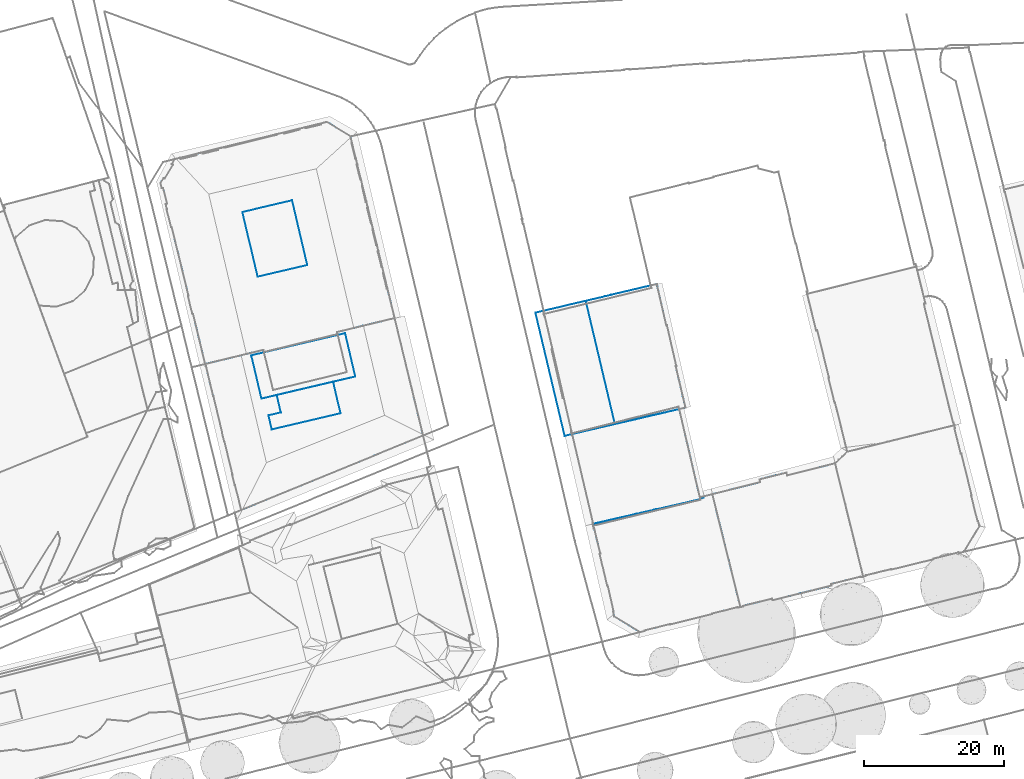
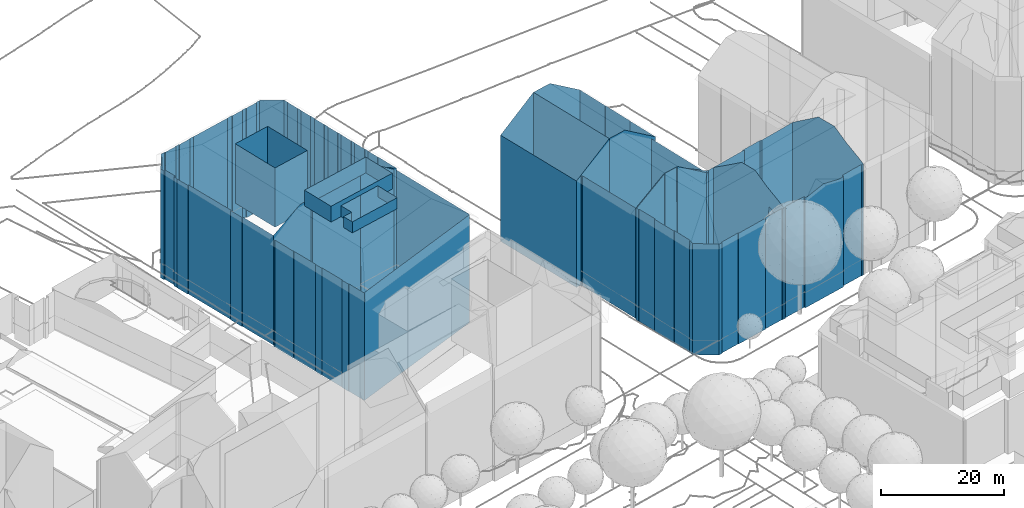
# Not in any storey, part 55 of 494: 7 walls.
"""IFC2X3 model written with IfcOpenShell, lengths in metres."""

import ifcopenshell
import ifcopenshell.guid

model = None  # the IFC model being written
_history = None  # IfcOwnerHistory: only IFC2X3 demands one
_inside = {}  # id of a spatial element -> (the spatial element, [elements in it])
_under = {}  # id of a project, library or spatial element -> (it, [spatial elements below it])
_declared = {}  # id of a project -> (the project, [libraries it declares])
_typed = {}  # id of a type object -> (the type object, [elements of that type])
_made_of = {}  # id of a material, layer set ... -> (it, [elements and type objects made of it])


def new_model(schema):
    """Start an empty IFC model of exactly this schema.

    Asked for "IFC4X3", IfcOpenShell would pick the latest addendum, in which some entities
    have other attributes; the version numbers below select the first issue.
    IFC2X3 requires an IfcOwnerHistory on every rooted entity: one is made here for all.
    """
    global model, _history
    if schema == "IFC4X3":
        model = ifcopenshell.file(schema_version=(4, 3, 0, 0))
    else:
        model = ifcopenshell.file(schema=schema)
    _inside.clear()
    _under.clear()
    _declared.clear()
    _typed.clear()
    _made_of.clear()
    _history = None
    if model.schema == "IFC2X3":
        org = make("IfcOrganization", Name="unknown")
        user = make(
            "IfcPersonAndOrganization",
            ThePerson=make("IfcPerson", FamilyName="unknown"),
            TheOrganization=org,
        )
        app = make(
            "IfcApplication",
            ApplicationDeveloper=org,
            Version="unknown",
            ApplicationFullName="unknown",
            ApplicationIdentifier="unknown",
        )
        _history = make(
            "IfcOwnerHistory",
            OwningUser=user,
            OwningApplication=app,
            ChangeAction="ADDED",
            CreationDate=0,
        )
    return model


def make(cls, **values):
    """One entity of the class cls with the attributes given. An attribute that is None is left unset."""
    return model.create_entity(
        cls, **{name: value for name, value in values.items() if value is not None}
    )


def rooted(cls, **values):
    """An entity with a GlobalId (a new one), such as an element, a storey or a relation."""
    return make(cls, GlobalId=ifcopenshell.guid.new(), OwnerHistory=_history, **values)


def si_unit(unit_type, name, prefix=None):
    """IfcSIUnit, for example si_unit("LENGTHUNIT", "METRE", prefix="MILLI")."""
    return make("IfcSIUnit", UnitType=unit_type, Prefix=prefix, Name=name)


def assignment(units):
    """IfcUnitAssignment: the units of a project."""
    return None if units is None else make("IfcUnitAssignment", Units=units)


def point(xyz):
    """IfcCartesianPoint."""
    return None if xyz is None else make("IfcCartesianPoint", Coordinates=xyz)


def direction(xyz):
    """IfcDirection."""
    return None if xyz is None else make("IfcDirection", DirectionRatios=xyz)


def frame(location, z_axis=None, x_axis=None):
    """IfcAxis2Placement3D, a coordinate frame: its origin and axes. An axis left out is left unset."""
    return make(
        "IfcAxis2Placement3D",
        Location=point(location),
        Axis=direction(z_axis),
        RefDirection=direction(x_axis),
    )


def origin_with_axes():
    """The frame at (0, 0, 0) with the z axis (0, 0, 1) and the x axis (1, 0, 0) written out."""
    return frame((0.0, 0.0, 0.0), z_axis=(0.0, 0.0, 1.0), x_axis=(1.0, 0.0, 0.0))


def place(relative_to, where):
    """IfcLocalPlacement: puts the frame where relative to a parent placement (None: the world)."""
    return make(
        "IfcLocalPlacement", PlacementRelTo=relative_to, RelativePlacement=where
    )


def context(
    kind, dimensions, precision=None, world=None, true_north=None, identifier=None
):
    """IfcGeometricRepresentationContext, for example the 3D "Model" context."""
    return make(
        "IfcGeometricRepresentationContext",
        ContextIdentifier=identifier,
        ContextType=kind,
        CoordinateSpaceDimension=dimensions,
        Precision=precision,
        WorldCoordinateSystem=world,
        TrueNorth=true_north,
    )


def subcontext(parent, identifier, kind, view, scale=None):
    """IfcGeometricRepresentationSubContext, for example "Body" below "Model"."""
    return make(
        "IfcGeometricRepresentationSubContext",
        ContextIdentifier=identifier,
        ContextType=kind,
        ParentContext=parent,
        TargetScale=scale,
        TargetView=view,
    )


def project(units=None, contexts=None):
    """IfcProject with its units and contexts."""
    return rooted(
        "IfcProject",
        Name="project",
        RepresentationContexts=contexts,
        UnitsInContext=assignment(units),
    )


def faces_of(points, faces, orient=None, outer=None):
    """IfcFace entities. A face is a list of loops; a loop is a list of indices into points, from 0.

    orient and outer hold one flag for each loop. By default every Orientation is true, the
    first loop of a face is its IfcFaceOuterBound and the others are IfcFaceBound.
    """
    made = []
    for i, loops in enumerate(faces):
        bounds = []
        for j, loop in enumerate(loops):
            is_outer = j == 0 if outer is None else outer[i][j]
            bounds.append(
                make(
                    "IfcFaceOuterBound" if is_outer else "IfcFaceBound",
                    Bound=make("IfcPolyLoop", Polygon=[points[k] for k in loop]),
                    Orientation=True if orient is None else orient[i][j],
                )
            )
        made.append(make("IfcFace", Bounds=bounds))
    return made


def faceted_brep(points, faces, orient=None, outer=None, voids=None):
    """IfcFacetedBrep: a solid bounded by flat faces; with voids (closed shells), ...WithVoids."""
    shared = [point(p) for p in points]
    hull = make("IfcClosedShell", CfsFaces=faces_of(shared, faces, orient, outer))
    if voids is None:
        return make("IfcFacetedBrep", Outer=hull)
    return make(
        "IfcFacetedBrepWithVoids",
        Outer=hull,
        Voids=[
            make(cls, CfsFaces=faces_of(shared, fs, o, b)) for cls, fs, o, b in voids
        ],
    )


def shape(context_of_items, identifier, shape_type, items):
    """IfcShapeRepresentation: the items that make up one representation, for example the "Body"."""
    return make(
        "IfcShapeRepresentation",
        ContextOfItems=context_of_items,
        RepresentationIdentifier=identifier,
        RepresentationType=shape_type,
        Items=items,
    )


def made_of(thing, what):
    """Note that an element or type object is made of a material, layer set ...; save() writes the relation."""
    if what is not None:
        _made_of.setdefault(what.id(), (what, []))[1].append(thing)
    return thing


def element(
    cls,
    number,
    at=None,
    inside=None,
    cuts=None,
    type_object=None,
    material=None,
    context=None,
    identifier="Body",
    shape_type=None,
    held_by="IfcProductDefinitionShape",
    body=None,
    shapes=None,
    **own,
):
    """One element of the class cls, such as IfcWall. Its Tag is "e" and its number.

    at: its placement. inside: the storey or other place that contains it. cuts: it is an
    opening in that element (IfcRelVoidsElement). A single representation is given by context,
    identifier, shape_type and body (its items); several are given by shapes. held_by: the class
    of the entity that holds the representations. save() writes the other relations.
    """
    e = rooted(cls, Tag="e%d" % number, ObjectPlacement=at, **own)
    if body is not None:
        shapes = [shape(context, identifier, shape_type, body)]
    if shapes is not None:
        e.Representation = make(held_by, Representations=shapes)
    if inside is not None:
        _inside.setdefault(inside.id(), (inside, []))[1].append(e)
    if cuts is not None:
        rooted(
            "IfcRelVoidsElement", RelatingBuildingElement=cuts, RelatedOpeningElement=e
        )
    if type_object is not None:
        _typed.setdefault(type_object.id(), (type_object, []))[1].append(e)
    return made_of(e, material)


def aggregate(whole, parts):
    """IfcRelAggregates: a whole, such as a stair, and the parts it consists of."""
    return rooted("IfcRelAggregates", RelatingObject=whole, RelatedObjects=parts)


def save(model, path):
    """Write the relations noted so far, then the file.

    IfcRelAggregates (storeys below a building ...), IfcRelContainedInSpatialStructure (elements
    in a storey), IfcRelDefinesByType, IfcRelAssociatesMaterial and IfcRelDeclares: one each for
    every whole, place, type object, material and project.
    """
    for whole, parts in _under.values():
        aggregate(whole, parts)
    for where, things in _inside.values():
        rooted(
            "IfcRelContainedInSpatialStructure",
            RelatedElements=things,
            RelatingStructure=where,
        )
    for kind, things in _typed.values():
        rooted("IfcRelDefinesByType", RelatedObjects=things, RelatingType=kind)
    for what, things in _made_of.values():
        rooted("IfcRelAssociatesMaterial", RelatedObjects=things, RelatingMaterial=what)
    for by, libraries in _declared.values():
        rooted("IfcRelDeclares", RelatingContext=by, RelatedDefinitions=libraries)
    model.write(path)


model = new_model("IFC2X3")

# Units and contexts
model_context = context("Model", 3, precision=1e-05, world=origin_with_axes())
body_context = subcontext(model_context, "Body", "Model", "MODEL_VIEW")
ifc_project = project(units=[si_unit("AREAUNIT", "SQUARE_METRE"), si_unit("LENGTHUNIT", "METRE")], contexts=[model_context])

# Walls
wall_1_placement = place(None, frame((230.2577320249, 452.7801160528, 539.0125), z_axis=(0.0, 0.0, 1.0), x_axis=(1.0, 0.0, 0.0)))
element("IfcWall", 1, at=wall_1_placement, Name="Wall 0", context=body_context, shape_type="Brep", body=[
    faceted_brep([(16.5780000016, 6.927699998, 21.8199), (16.5780000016, 6.927699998, 0.0), (16.5880000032, 6.8554999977, 0.0), (9.126000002, 5.0029000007, 0.0), (9.126000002, 5.0029000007, 21.9099), (16.5880000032, 6.8554999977, 21.8589), (9.1020000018, 5.0918000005, 0.0), (9.1020000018, 5.0918000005, 21.8589), (8.1790000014, 4.865199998, 0.0), (8.1790000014, 4.865199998, 21.8639), (8.2260000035, 4.682599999, 21.9669), (5.9920000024, 4.1405999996, 0.0), (5.9920000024, 4.1405999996, 21.9749), (8.2260000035, 4.682599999, 0.0), (5.942900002, 4.3242000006, 0.0), (5.943, 4.3242000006, 21.8709), (5.0940000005, 4.1191000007, 21.8739), (5.0940000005, 4.1191000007, 0.0), (5.1450000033, 3.932599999, 21.9799), (5.1450000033, 3.932599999, 0.0), (2.8370000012, 3.5751999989, 0.0), (2.8370000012, 3.5751999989, 21.8799), (2.8790000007, 3.3896000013, 21.9849), (2.8790000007, 3.3896000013, 0.0), (23.6950000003, 8.6816000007, 0.0), (22.8540000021, 8.4745999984, 0.0), (23.6950000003, 8.6816000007, 21.7789), (22.893000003, 8.3104999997, 21.8749), (22.893000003, 8.3104999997, 0.0), (22.8540000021, 8.4745999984, 21.7829), (20.6920000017, 7.7694999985, 0.0), (20.6920000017, 7.7694999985, 21.8869), (20.6500000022, 7.9316000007, 0.0), (19.8040000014, 7.7225999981, 0.0), (19.8040000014, 7.7225999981, 21.8009), (20.6500000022, 7.9316000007, 21.7959), (19.8400000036, 7.5683000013, 21.8869), (17.5990000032, 7.0155999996, 21.9009), (19.8400000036, 7.5683000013, 0.0), (17.5990000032, 7.0155999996, 0.0), (25.2350000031, -21.5371000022, 25.1226), (14.745000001, -24.0771999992, 25.1226), (25.2350000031, -21.5371000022, 0.0), (25.1650000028, -21.2373000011, 25.1226), (25.1650000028, -21.2373000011, 0.0), (27.2200000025, 5.6796999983, 21.9849), (27.756000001, 3.4463, 21.9799), (27.2200000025, 5.6796999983, 0.0), (27.2960000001, 5.6992000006, 21.9419), (27.2960000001, 5.6992000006, 0.0), (32.3320000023, -15.0274000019, 21.8609), (32.8790000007, -17.2793000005, 21.8529), (32.3320000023, -15.0274000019, 0.0), (33.3600000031, -19.259800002, 21.8449), (33.3600000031, -19.259800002, 0.0), (32.2300000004, -15.0487999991, 21.9179), (32.2299000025, -15.0489000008, 0.0), (31.6970000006, -12.8408000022, 21.9249), (31.6970000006, -12.8408000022, 0.0), (31.7940000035, -12.8145000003, 0.0), (31.7940000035, -12.8145000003, 21.8699), (31.5860000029, -11.9561000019, 0.0), (31.5860000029, -11.9561000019, 21.8729), (31.4900000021, -11.9824000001, 21.9269), (31.4900000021, -11.9824000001, 0.0), (31.0420000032, -9.7158000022, 21.8819), (30.9450000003, -9.751000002, 21.9379), (31.0420000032, -9.7158000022, 0.0), (30.9450000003, -9.751000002, 0.0), (30.8360000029, -8.8672000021, 0.0), (30.7380000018, -8.884800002, 0.0), (30.7380000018, -8.884800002, 21.9389), (30.2910000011, -6.6231000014, 0.0), (30.2910000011, -6.6231000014, 21.8929), (30.200000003, -6.6464999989, 0.0), (30.1999000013, -6.6464999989, 21.9449), (30.0790000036, -5.7529000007, 0.0), (30.0790000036, -5.7529000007, 21.8969), (29.9910000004, -5.7754000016, 21.9469), (29.9910000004, -5.7754000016, 0.0), (29.4420000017, -3.5713, 0.0), (29.5420000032, -3.5439999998, 21.9059), (29.5420000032, -3.5439999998, 0.0), (29.3340000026, -2.688500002, 0.0), (28.7090000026, -0.4902000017, 21.9659), (29.2390000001, -2.7109999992, 21.9629), (29.2390000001, -2.7109999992, 0.0), (28.7950000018, -0.4677999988, 21.9179), (28.7090000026, -0.4902000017, 0.0), (28.7950000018, -0.4677999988, 0.0), (28.5660000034, 0.4765000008, 21.9209), (28.5660000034, 0.4765000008, 0.0), (27.9520000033, 2.5918000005, 21.9819), (28.4730000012, 0.4550999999, 21.9729), (28.4730000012, 0.4550999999, 0.0), (27.9520000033, 2.5918000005, 0.0), (28.0450000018, 2.6191000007, 21.9299), (28.0450000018, 2.6191000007, 0.0), (27.8370000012, 3.4765000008, 0.0), (27.8370000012, 3.4765000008, 21.9329), (27.756000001, 3.4463, 0.0), (0.193, -0.759800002, 21.684), (0.0, 0.0, 21.676), (0.0, 0.0, 0.0), (0.3900000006, -0.7080000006, 0.0), (0.3900000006, -0.7080000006, 21.795), (0.193, -0.759800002, 0.0), (0.9550000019, -2.9834000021, 0.0), (0.7440000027, -3.0401000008, 0.0), (0.7440000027, -3.0401000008, 21.691), (0.932, -3.7626999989, 0.0), (0.8920000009, -3.7793000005, 0.0), (0.932, -3.7626999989, 21.7), (1.5210000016, -6.313500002, 21.694), (0.8920000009, -3.7793000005, 21.677), (1.5210000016, -6.313500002, 0.0), (1.6220000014, -6.2890999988, 21.7509), (1.6220000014, -6.2890999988, 0.0), (4.0050000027, -16.0331999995, 0.0), (4.0050000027, -16.0331999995, 21.7969), (3.9150000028, -16.066399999, 21.7449), (3.9150000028, -16.066399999, 0.0), (4.563000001, -18.7061000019, 21.7589), (4.563000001, -18.7061000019, 0.0), (4.6691000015, -18.6816000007, 0.0), (6.3790000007, -25.7998000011, 21.8349), (5.7700000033, -23.2666000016, 21.8289), (6.3790000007, -25.7998000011, 0.0), (4.6690000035, -18.6816999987, 21.8179), (5.5080000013, -22.1737999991, 0.0), (1.6120000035, 2.682599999, 0.0), (1.6120000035, 2.682599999, 21.784), (2.0240000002, 3.378899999, 21.801), (2.0240000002, 3.378899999, 0.0), (1.7870000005, 2.5702999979, 21.8889), (1.7870000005, 2.5702999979, 0.0), (0.5960000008, 0.5975999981, 21.8309), (0.5960000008, 0.5975999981, 0.0), (0.4340000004, 0.7080000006, 21.733), (0.4340000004, 0.7080000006, 0.0), (20.9200000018, -11.6895000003, 0.497), (18.75, -2.4805000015, 0.497), (20.9200000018, -11.6895000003, 0.0), (20.9200000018, -11.6895000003, 25.1226), (18.75, -2.4805000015, 25.1226), (20.9200000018, -11.6895000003, 13.3077), (13.8490000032, -13.3555000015, 0.497), (13.8490000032, -13.3555000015, 0.0), (13.8490000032, -13.3555000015, 25.1226), (13.8490000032, -13.3555000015, 13.3077), (11.6790000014, -4.1464999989, 25.1226), (11.6790000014, -4.1464999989, 13.3077), (11.6790000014, -4.1464999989, 0.497), (11.6790000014, -4.1464999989, 0.0), (18.75, -2.4805000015, 0.0), (18.75, -2.4805000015, 13.3077), (2.2350000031, 3.4296999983, 21.8829), (27.074000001, 6.6162, 21.9039), (23.8570000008, 8.5830000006, 21.8509), (27.074000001, 6.6162, 0.0), (12.2280000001, -24.3720999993, 25.1226), (12.2280000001, -24.3720999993, 0.0), (14.6650000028, -23.7774000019, 25.1226), (14.745000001, -24.0771999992, 0.0), (14.6650000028, -23.7774000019, 0.0), (27.5240000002, -20.6680000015, 25.1226), (27.5240000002, -20.6680000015, 0.0), (27.1000000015, 6.5088, 21.9449), (0.0490000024, 0.0800999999, 21.712), (17.5710000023, 7.1728000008, 0.0), (17.5710000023, 7.1728000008, 21.8139), (30.8360000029, -8.8672000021, 21.8849), (29.4420000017, -3.5713, 21.9619), (29.3340000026, -2.688500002, 21.9089), (0.9550000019, -2.9834000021, 21.8099)], [[[0, 1, 2]], [[3, 4, 5]], [[5, 2, 3]], [[4, 3, 6]], [[7, 6, 8]], [[9, 8, 10]], [[11, 12, 10]], [[11, 10, 13]], [[14, 15, 12]], [[12, 11, 14]], [[16, 14, 17]], [[15, 14, 16]], [[18, 16, 19]], [[19, 16, 17]], [[20, 21, 22]], [[22, 23, 20]], [[24, 25, 26]], [[27, 25, 28]], [[29, 25, 27]], [[30, 31, 28]], [[27, 28, 31]], [[31, 30, 32]], [[33, 34, 35]], [[36, 34, 33]], [[37, 38, 39]], [[40, 41, 42]], [[43, 40, 44]], [[45, 46, 47]], [[48, 47, 49]], [[48, 45, 47]], [[50, 51, 52]], [[51, 53, 54]], [[54, 52, 51]], [[55, 50, 56]], [[57, 55, 58]], [[55, 56, 58]], [[58, 59, 60]], [[61, 62, 59]], [[63, 62, 64]], [[64, 62, 61]], [[65, 66, 67]], [[67, 66, 68]], [[65, 67, 69]], [[70, 71, 69]], [[72, 73, 74]], [[75, 74, 73]], [[76, 77, 73]], [[73, 72, 76]], [[76, 78, 77]], [[78, 79, 80]], [[81, 80, 82]], [[81, 82, 83]], [[84, 85, 86]], [[87, 88, 89]], [[90, 89, 91]], [[92, 93, 94]], [[95, 96, 92]], [[97, 96, 95]], [[96, 97, 98]], [[46, 99, 98]], [[46, 98, 100]], [[101, 102, 103]], [[104, 105, 106]], [[105, 104, 107]], [[108, 109, 107]], [[109, 108, 110]], [[111, 112, 110]], [[113, 114, 115]], [[116, 115, 117]], [[118, 119, 117]], [[119, 116, 117]], [[120, 118, 121]], [[118, 120, 119]], [[122, 120, 123]], [[120, 121, 123]], [[124, 122, 123]], [[125, 126, 127]], [[126, 128, 129]], [[128, 124, 129]], [[130, 131, 132]], [[132, 133, 130]], [[131, 130, 134]], [[134, 130, 135]], [[134, 135, 136]], [[137, 136, 135]], [[138, 136, 139]], [[136, 137, 139]], [[140, 141, 142]], [[143, 144, 145]], [[146, 140, 147]], [[148, 143, 149]], [[150, 148, 151]], [[152, 146, 153]], [[141, 152, 154]], [[144, 150, 155]], [[20, 133, 132]], [[21, 20, 132]], [[132, 156, 21]], [[24, 26, 157]], [[157, 26, 158]], [[24, 157, 159]], [[160, 161, 162]], [[160, 127, 161]], [[125, 127, 160]], [[162, 163, 41]], [[163, 162, 164]], [[53, 165, 54]], [[44, 166, 43]], [[166, 54, 165]], [[157, 167, 159]], [[167, 49, 159]], [[48, 49, 167]], [[103, 102, 139]], [[139, 102, 168]], [[139, 168, 138]], [[5, 0, 2]], [[7, 4, 6]], [[8, 9, 7]], [[8, 13, 10]], [[23, 22, 18]], [[18, 19, 23]], [[25, 29, 26]], [[31, 32, 35]], [[35, 32, 33]], [[38, 36, 33]], [[36, 38, 37]], [[169, 170, 39]], [[37, 39, 170]], [[170, 1, 0]], [[170, 169, 1]], [[41, 163, 42]], [[40, 42, 44]], [[46, 100, 47]], [[50, 52, 56]], [[60, 57, 58]], [[60, 59, 62]], [[63, 68, 66]], [[63, 64, 68]], [[69, 171, 65]], [[171, 69, 71]], [[71, 70, 74]], [[71, 74, 75]], [[78, 76, 79]], [[80, 172, 78]], [[172, 80, 81]], [[81, 83, 173]], [[173, 86, 85]], [[173, 83, 86]], [[84, 86, 88]], [[84, 88, 87]], [[87, 89, 90]], [[90, 94, 93]], [[90, 91, 94]], [[92, 94, 95]], [[98, 99, 96]], [[106, 101, 103]], [[106, 105, 101]], [[105, 107, 174]], [[109, 174, 107]], [[109, 110, 112]], [[111, 114, 112]], [[114, 111, 115]], [[113, 115, 116]], [[122, 124, 128]], [[126, 129, 127]], [[141, 154, 142]], [[144, 155, 145]], [[140, 142, 147]], [[143, 145, 149]], [[148, 149, 151]], [[146, 147, 153]], [[152, 153, 154]], [[150, 151, 155]], [[161, 164, 162]], [[166, 165, 43]]]),
])
wall_2_placement = place(None, frame((236.6347320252, 426.9871160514, 538.7695), z_axis=(0.0, 0.0, 1.0), x_axis=(1.0, 0.0, 0.0)))
element("IfcWall", 2, at=wall_2_placement, Name="Wall 0", context=body_context, shape_type="Brep", body=[
    faceted_brep([(2.7330000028, -11.1210999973, 0.0), (2.7330000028, -11.1210999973, 21.329), (2.376000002, -9.6816000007, 0.0), (2.376000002, -9.6816000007, 21.317), (2.7730999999, -11.1136000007, 0.0), (2.7730000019, -11.1132999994, 21.358), (3.8969999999, -15.7313999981, 21.382), (3.8969999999, -15.7313999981, 0.0), (3.8449000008, -15.7606000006, 0.0), (3.8450000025, -15.7606999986, 21.342), (4.2070000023, -17.2196999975, 0.0), (4.256000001, -17.2236000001, 0.0), (4.2070000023, -17.2196999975, 21.355), (5.1359999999, -20.7929999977, 5.3535), (5.1359999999, -20.7929999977, 10.707), (5.1359999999, -20.7929999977, 0.0), (5.1359999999, -20.7929999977, 21.4139), (4.256000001, -17.2236000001, 21.387), (0.0730000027, -0.3017999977, 0.0), (0.0730000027, -0.3017999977, 21.254), (0.0, 0.0, 21.253), (0.0, 0.0, 10.626), (0.1210000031, -0.2899999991, 0.0), (1.1440000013, -4.5946999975, 21.295), (0.1210000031, -0.2899999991, 21.289), (1.1440000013, -4.5946999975, 0.0), (1.1799999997, -4.5888999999, 21.32), (1.1799999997, -4.5888999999, 0.0), (2.4130000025, -9.6649999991, 0.0), (2.4130000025, -9.6649999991, 21.345), (8.3680000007, 1.7158000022, 24.9116), (18.8580000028, 4.2558999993, 24.9116), (8.3680000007, 1.7158000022, 0.0), (8.2880000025, 2.0155999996, 24.9116), (8.2880000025, 2.0155999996, 0.0), (18.7880000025, 4.5556000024, 24.9116), (18.8580000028, 4.2558000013, 0.0), (18.2190000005, -2.5136999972, 27.1124), (19.2790000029, -7.0117000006, 27.1124), (18.2190000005, -2.5136999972, 24.9116), (10.7780000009, -6.8856999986, 27.1124), (10.194000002, -4.4043000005, 27.1124), (10.7780000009, -6.8856999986, 24.9116), (9.012000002, -7.3017999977, 27.1124), (9.012000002, -7.3017999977, 24.9116), (9.4869999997, -9.3183999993, 27.1124), (9.4869999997, -9.3183999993, 24.9116), (19.2790000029, -7.0117000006, 24.9116), (6.5670000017, 1.2305000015, 28.0713), (19.9299999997, 4.379900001, 28.0713), (6.5670000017, 1.2305000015, 24.9116), (8.0160000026, -4.9169999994, 28.0713), (8.0160000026, -4.9169999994, 24.9116), (21.3790000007, -1.7685999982, 28.0713), (21.3790000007, -1.7685000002, 24.9116), (10.194000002, -4.4043000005, 24.9116), (19.9299999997, 4.379900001, 24.9116), (5.2550000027, -20.7441000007, 21.5019), (8.6070000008, -19.3710999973, 21.5229), (31.0420000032, -10.177699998, 0.0), (31.0420000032, -10.177699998, 21.5039), (8.6070000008, -19.3710999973, 0.0), (0.0, 0.0, 0.0), (5.0970000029, 1.2393000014, 0.0), (5.0970000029, 1.2393000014, 24.9116), (18.7880000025, 4.5557000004, 0.0), (22.5100000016, 5.4530999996, 0.0), (26.9830000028, 6.5331999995, 21.7019), (26.9830000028, 6.5331999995, 0.0), (22.5100000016, 5.4530999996, 24.9116), (31.0030000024, -10.0165999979, 21.6208)], [[[0, 1, 2]], [[1, 3, 2]], [[4, 5, 1]], [[1, 0, 4]], [[6, 5, 4]], [[7, 6, 4]], [[8, 9, 6]], [[8, 6, 7]], [[9, 8, 10]], [[11, 12, 10]], [[13, 14, 11]], [[15, 13, 11]], [[16, 17, 11]], [[18, 19, 20]], [[20, 21, 18]], [[19, 18, 22]], [[22, 23, 24]], [[23, 22, 25]], [[26, 23, 27]], [[23, 25, 27]], [[28, 29, 26]], [[29, 28, 3]], [[30, 31, 32]], [[33, 30, 34]], [[31, 35, 36]], [[37, 38, 39]], [[40, 41, 42]], [[43, 40, 44]], [[45, 43, 46]], [[38, 45, 47]], [[48, 49, 50]], [[51, 48, 52]], [[53, 37, 54]], [[51, 37, 53]], [[39, 54, 37]], [[41, 51, 52]], [[52, 55, 41]], [[49, 53, 56]], [[57, 16, 58]], [[59, 60, 61]], [[58, 14, 60]], [[14, 13, 60]], [[60, 13, 61]], [[13, 15, 61]], [[14, 58, 16]], [[62, 21, 63]], [[21, 34, 63]], [[20, 64, 34]], [[20, 34, 21]], [[34, 64, 33]], [[65, 35, 66]], [[67, 68, 66]], [[67, 66, 69]], [[68, 67, 60]], [[60, 67, 70]], [[60, 59, 68]], [[9, 10, 12]], [[11, 17, 12]], [[14, 16, 11]], [[21, 62, 18]], [[22, 24, 19]], [[26, 27, 28]], [[2, 3, 28]], [[31, 36, 32]], [[30, 32, 34]], [[35, 65, 36]], [[38, 47, 39]], [[41, 55, 42]], [[40, 42, 44]], [[43, 44, 46]], [[45, 46, 47]], [[49, 56, 50]], [[48, 50, 52]], [[41, 37, 51]], [[53, 54, 56]], [[35, 69, 66]]]),
])
wall_3_placement = place(None, frame((283.6617320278, 434.311316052, 538.7775), z_axis=(0.0, 0.0, 1.0), x_axis=(1.0, 0.0, 0.0)))
element("IfcWall", 3, at=wall_3_placement, Name="Wall 0", context=body_context, shape_type="Brep", body=[
    faceted_brep([(11.3239999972, -15.8759999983, 26.1405), (4.1699999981, -17.5546999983, 21.2009), (11.3239999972, -15.8759000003, 0.0), (0.0, 0.0, 21.156), (4.1699999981, -17.5546999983, 0.0), (11.3189999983, -15.8486000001, 26.1405), (11.3189999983, -15.8486000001, 0.0), (11.318, -15.8495999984, 0.0), (11.318, -15.8495999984, 26.1405), (7.1600000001, 1.6689999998, 26.1705), (7.1600000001, 1.6689999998, 0.0), (0.0, 0.0, 0.0)], [[[0, 1, 2]], [[1, 3, 4]], [[5, 0, 6]], [[5, 6, 7]], [[7, 8, 5]], [[9, 8, 10]], [[3, 10, 11]], [[1, 4, 2]], [[3, 11, 4]], [[0, 2, 6]], [[8, 7, 10]], [[9, 10, 3]]]),
])
wall_4_placement = place(None, frame((283.6617320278, 434.311316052, 538.7775), z_axis=(0.0, 0.0, 1.0), x_axis=(1.0, 0.0, 0.0)))
element("IfcWall", 4, at=wall_4_placement, Name="Wall 1", context=body_context, shape_type="Brep", body=[
    faceted_brep([(21.3729999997, -13.5252999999, 0.0), (21.3729999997, -13.5253999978, 21.5609), (21.2190000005, -13.5634000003, 21.6669), (21.1380000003, -13.5848999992, 0.0), (21.1510000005, -12.5859000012, 21.5679), (21.1259999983, -12.4785000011, 5.3884), (20.9780000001, -11.8506000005, 0.0), (18.7249999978, -1.8104999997, 21.5829), (20.068, -7.615199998, 21.5519), (18.7249999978, -1.8104999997, 0.0), (17.9549999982, 1.1484999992, 21.6549), (17.4519999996, 3.3311000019, 0.0), (17.4149999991, 3.4922000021, 21.6659), (18.0579999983, 0.7032000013, 0.0), (18.6429999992, -1.8359000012, 21.6399), (18.6429999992, -1.8359000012, 0.0), (16.4169999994, 3.8662, 22.2649), (17.2630000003, 4.0577000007, 21.6829), (16.4169999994, 3.8662, 0.0), (10.8019999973, 2.5371000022, 0.0), (10.8019999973, 2.5371000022, 26.1365), (19.9839999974, -7.6396000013, 21.6099), (20.5519999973, -10.0458999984, 21.5899), (19.9839999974, -7.6396000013, 0.0), (20.981999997, -11.8680999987, 21.5749), (20.5739999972, -10.1396000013, 12.8097), (20.4230000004, -9.5, 0.0), (20.7300000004, -10.7978000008, 5.3754), (20.068, -7.615199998, 0.0), (17.2839999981, 4.0625, 21.6689), (17.2839999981, 4.0625, 0.0), (17.3680000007, 3.697300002, 5.4155), (17.4100000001, 3.5146999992, 5.4145), (17.3539999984, 3.7588, 21.6669), (9.9450000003, 2.3330000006, 26.1805), (9.9450000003, 2.3330000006, 0.0), (20.9039999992, -13.6435000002, 21.8849), (20.481999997, -13.75, 0.0), (21.1169999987, -13.5898000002, 21.7369), (20.481999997, -13.75, 22.1768), (14.7309999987, -15.0731999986, 0.0), (14.7309999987, -15.0731999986, 26.1375), (14.2960000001, -15.1748000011, 26.1375), (14.1519999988, -15.2157999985, 26.1375), (14.2960000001, -15.1748000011, 0.0), (11.3239999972, -15.8759000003, 26.1405), (11.3209999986, -15.8486000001, 26.1405), (11.3238999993, -15.8759999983, 0.0), (11.3209999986, -15.8486999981, 0.0), (14.1519999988, -15.2157999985, 0.0), (7.1600000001, 1.6689999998, 26.1705), (7.1600000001, 1.6689999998, 0.0), (11.318, -15.8495999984, 26.1405), (11.318, -15.8495999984, 0.0)], [[[0, 1, 2]], [[0, 2, 3]], [[1, 0, 4]], [[5, 0, 6]], [[7, 8, 9]], [[10, 11, 12]], [[13, 11, 10]], [[14, 15, 10]], [[10, 15, 13]], [[16, 17, 18]], [[19, 20, 16]], [[16, 18, 19]], [[21, 22, 23]], [[22, 24, 25]], [[24, 6, 25]], [[26, 25, 27]], [[25, 6, 27]], [[27, 6, 26]], [[8, 21, 28]], [[17, 29, 18]], [[18, 29, 30]], [[31, 12, 32]], [[30, 29, 33]], [[30, 33, 31]], [[31, 32, 11]], [[12, 11, 32]], [[31, 11, 30]], [[34, 20, 35]], [[20, 19, 35]], [[3, 36, 37]], [[3, 38, 36]], [[39, 40, 37]], [[40, 39, 41]], [[42, 43, 44]], [[41, 42, 40]], [[45, 46, 47]], [[46, 48, 47]], [[43, 47, 49]], [[50, 35, 51]], [[52, 51, 53]], [[53, 46, 52]], [[46, 53, 48]], [[38, 3, 2]], [[24, 4, 5]], [[4, 0, 5]], [[24, 5, 6]], [[9, 8, 28]], [[14, 9, 15]], [[9, 14, 7]], [[22, 25, 23]], [[23, 25, 26]], [[28, 21, 23]], [[33, 12, 31]], [[39, 37, 36]], [[43, 49, 44]], [[42, 44, 40]], [[45, 47, 43]], [[34, 35, 50]], [[50, 51, 52]]]),
])
wall_5_placement = place(None, frame((308.8567320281, 408.4549160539, 538.5095), z_axis=(0.0, 0.0, 1.0), x_axis=(1.0, 0.0, 0.0)))
element("IfcWall", 5, at=wall_5_placement, Name="Wall 0", context=body_context, shape_type="Brep", body=[
    faceted_brep([(13.9749999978, 3.5067999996, 21.9979), (15.5039999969, 3.8944999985, 5.4804), (13.9759999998, 3.5067999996, 0.0), (17.4709999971, 4.3944999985, 0.0), (16.2980000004, 4.0966999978, 22.0388), (17.4709999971, 4.3944999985, 22.0598), (1.5929999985, -6.4024000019, 26.1974), (1.0329999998, -4.1513999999, 24.6236), (1.5929999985, -6.4024000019, 0.0), (18.9299999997, -1.4707000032, 26.1614), (18.9299999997, -1.4707000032, -0.0001), (1.8229999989, -7.3281000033, 26.2114), (1.8229999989, -7.3281000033, 0.0), (19.6349999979, -4.3057000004, -0.0001), (2.3619999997, -9.4942000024, 26.2094), (2.3619999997, -9.4942000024, -0.0001), (19.6349999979, -4.3057000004, 26.2034), (19.8399999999, -5.130900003, 26.2024), (20.5169999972, -7.8545000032, 24.3446), (19.8399999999, -5.130900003, -0.0001), (3.057, -12.2881000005, 24.3036), (3.7289999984, -14.9922000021, -0.0001), (16.9329999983, -12.7871000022, 22.1108), (16.9329999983, -12.7871000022, -0.0001), (19.1270000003, -12.2373000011, -0.0001), (21.1730000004, -10.4922000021, 22.9007), (20.5169999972, -7.8545000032, -0.0001), (16.1469999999, -13.2285000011, -0.0001), (16.992999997, -13.0195000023, -0.0001), (16.992999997, -13.0196000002, 21.9838), (16.0429999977, -13.2539000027, 21.9528), (21.0849999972, -11.746100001, -0.0001), (21.0849999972, -11.746100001, 22.1598), (19.1279999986, -12.2373000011, 22.1858), (21.118999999, -11.8350000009, -0.0001), (21.118999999, -11.8350000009, 22.1008), (21.481999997, -11.7373000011, 22.0998), (21.481999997, -11.7373000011, -0.0001), (21.1730000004, -10.4922000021, -0.0001), (0.0, 0.0, 21.8489), (0.6739999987, 0.1679999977, 21.8519), (0.0, 0.0, 0.0), (1.2280000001, 0.3055999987, 0.0), (0.0189999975, -0.077200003, 21.8899), (10.6609999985, 2.6659999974, 0.0), (10.6609999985, 2.6659999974, 21.9659), (8.3409999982, 2.5106999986, 5.3984), (8.3409999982, 2.5106999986, 21.6709), (9.0779999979, 2.6963, 5.4074), (9.0779999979, 2.6963, 21.6799), (9.8159999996, 2.8798999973, 8.1272), (7.6030000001, 2.3261999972, 0.0), (10.5529999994, 3.0643999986, 21.6969), (10.5529999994, 3.0643999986, 0.0), (9.8159999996, 2.8798999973, 21.6879), (2.625, 0.6552999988, 21.8709), (4.3949999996, 1.0966999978, 21.8919), (2.625, 0.6552999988, 12.2798), (1.2280000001, 0.3055999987, 21.8539), (4.0219999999, 1.0028999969, 0.0), (6.8149999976, 1.7011999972, 0.0), (1.0329999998, -4.1513999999, 0.0), (6.7170000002, 2.1034999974, 0.0), (6.7170000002, 2.1034999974, 21.6589), (7.1600000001, 2.2148000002, 5.4134), (7.4019999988, 2.2753999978, 21.6609), (6.7300000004, 2.0507999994, 21.6879), (6.7300000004, 2.047799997, 0.0), (14.8709999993, -13.5439999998, 22.2168), (13.9749999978, -13.7666000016, 8.5691), (12.6050000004, -14.1055000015, 22.7268), (12.5759999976, -14.1123000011, -0.0001), (9.057, -14.9844000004, 21.9508), (8.9059999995, -15.0215000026, -0.0001), (8.5139999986, -14.8770000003, -0.0001), (7.3809999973, -15.1582000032, 22.1318), (6.0240000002, -15.4932000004, -0.0001), (8.5139999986, -14.8770000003, 22.0928), (5.8839999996, -15.5283000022, 22.1838), (5.3019999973, -15.6719000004, 22.1818), (6.5419999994, -15.3652000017, 11.0689), (8.568, -15.1055000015, 21.9678), (8.568, -15.1055000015, -0.0001), (4.3649999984, -15.996100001, 22.1238), (4.0009999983, -16.0850000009, 22.1238), (4.3649999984, -15.996100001, -0.0001), (4.0009999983, -16.0850000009, -0.0001), (4.3420000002, -15.9101999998, -0.0001), (4.3420999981, -15.9101000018, 22.1788), (5.498999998, -15.6231000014, 5.5444), (3.7410000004, -15.0381000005, 22.7808), (6.8149999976, 1.7011999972, 21.9219)], [[[0, 1, 2]], [[3, 4, 5]], [[4, 3, 1]], [[1, 3, 2]], [[6, 7, 8]], [[3, 5, 9]], [[10, 3, 9]], [[11, 6, 12]], [[9, 13, 10]], [[14, 12, 15]], [[16, 17, 13]], [[17, 18, 19]], [[20, 15, 21]], [[22, 23, 24]], [[18, 25, 26]], [[27, 28, 29]], [[30, 27, 29]], [[24, 31, 32]], [[33, 24, 32]], [[34, 35, 31]], [[32, 31, 35]], [[36, 34, 37]], [[36, 35, 34]], [[25, 37, 38]], [[37, 25, 36]], [[39, 40, 41]], [[40, 42, 41]], [[43, 39, 41]], [[44, 45, 0]], [[0, 2, 44]], [[46, 47, 48]], [[48, 49, 50]], [[46, 51, 47]], [[51, 46, 48]], [[52, 53, 54]], [[54, 53, 50]], [[48, 50, 53]], [[48, 53, 51]], [[55, 56, 57]], [[55, 57, 58]], [[42, 58, 57]], [[59, 57, 56]], [[59, 42, 57]], [[60, 59, 56]], [[7, 43, 61]], [[62, 63, 64]], [[64, 65, 51]], [[64, 51, 62]], [[66, 63, 67]], [[27, 30, 68]], [[69, 27, 68]], [[70, 71, 69]], [[69, 71, 27]], [[71, 72, 73]], [[74, 75, 76]], [[74, 77, 75]], [[78, 79, 80]], [[80, 79, 76]], [[77, 74, 81]], [[81, 74, 82]], [[73, 72, 82]], [[83, 84, 85]], [[85, 84, 86]], [[83, 87, 88]], [[89, 79, 87]], [[79, 89, 76]], [[76, 89, 87]], [[88, 87, 79]], [[84, 21, 86]], [[21, 84, 90]], [[0, 4, 1]], [[7, 61, 8]], [[6, 8, 12]], [[16, 13, 9]], [[11, 12, 14]], [[17, 19, 13]], [[18, 26, 19]], [[14, 15, 20]], [[22, 28, 23]], [[29, 28, 22]], [[22, 24, 33]], [[25, 38, 26]], [[58, 42, 40]], [[45, 53, 52]], [[45, 44, 53]], [[47, 49, 48]], [[49, 54, 50]], [[51, 65, 47]], [[60, 91, 67]], [[66, 67, 91]], [[91, 60, 56]], [[43, 41, 61]], [[63, 65, 64]], [[63, 62, 67]], [[69, 68, 70]], [[70, 72, 71]], [[75, 78, 80]], [[75, 80, 76]], [[81, 82, 72]], [[20, 21, 90]], [[83, 85, 87]]]),
])
wall_6_placement = place(None, frame((291.8077320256, 404.2273160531, 538.5095), z_axis=(0.0, 0.0, 1.0), x_axis=(1.0, 0.0, 0.0)))
element("IfcWall", 6, at=wall_6_placement, Name="Wall 0", context=body_context, shape_type="Brep", body=[
    faceted_brep([(8.9010000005, 2.0351999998, 6.4394), (9.0620000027, 2.0722999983, 25.9655), (9.063000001, 2.0722999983, 0.0), (8.9100000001, 2.0372000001, 26.0615), (8.7360000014, 1.9980999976, 0.0), (8.7380000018, 1.9980999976, 26.1705), (6.3010000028, 1.4404999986, 26.1835), (7.7630000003, 1.7753999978, 26.1755), (6.2960000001, 1.4395000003, 0.0), (7.2149999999, 1.6494999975, 6.5413), (6.2679999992, 1.4327000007, 26.1835), (15.3000000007, 3.6279999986, 0.0), (15.3000000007, 3.6279999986, 22.2338), (15.813000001, 3.7529999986, 21.9279), (15.813000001, 3.7529999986, 0.0), (15.3280000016, 3.5078999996, 22.2348), (15.3280000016, 3.5078999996, 0.0), (9.0769999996, 2.0762000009, 0.0), (9.0769999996, 2.0762000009, 25.9565), (6.0510000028, 1.3838, 0.0), (6.0510000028, 1.3838, 26.1255), (6.2580000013, 1.4307000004, 0.0), (6.0410000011, 1.3818999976, 26.1265), (6.0460000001, 1.3828999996, 0.0), (20.1060000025, -8.0604999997, 24.3036), (20.7900000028, -10.8104999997, 22.7808), (19.4959999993, -5.6084000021, -0.0001), (7.4020000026, -15.2635999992, 22.0647), (6.7239999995, -15.4277000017, -0.0002), (7.4020000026, -15.2635999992, -0.0002), (7.3910000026, -15.1757000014, 22.1177), (11.0260000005, -14.2635999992, -0.0002), (11.0260000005, -14.2635999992, 22.1367), (11.0580000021, -14.3377999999, 22.0887), (11.0580000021, -14.3377999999, -0.0002), (17.0270000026, -12.8465999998, 22.1148), (17.0270000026, -12.8465999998, -0.0001), (17.0069999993, -12.7675000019, 22.1648), (17.0069999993, -12.7675000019, -0.0001), (20.6480000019, -11.8671000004, -0.0001), (20.6860000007, -11.946200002, 22.1228), (20.6860000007, -11.9463, -0.0001), (21.0500000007, -11.8574000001, 22.1238), (21.0500000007, -11.8574000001, -0.0001), (20.7900000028, -10.8104999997, -0.0001), (6.7239999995, -15.4277000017, 22.0647), (6.688000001, -15.4052000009, 22.0827), (3.0760000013, -13.1894000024, 0.0), (3.0760000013, -13.1894000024, 22.1578), (2.9930000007, -12.8242000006, 22.3138), (3.0030000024, -12.8662, 0.0), (4.4620000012, -14.0399999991, 22.1297), (4.7100000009, -14.1922999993, -0.0002), (0.0, 0.0, 0.0), (0.0, 0.0, 22.3178), (2.2900000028, 0.5234999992, 0.0), (1.8210000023, 0.4160999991, 23.4657), (0.0650000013, -0.2802000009, 0.0), (0.0620000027, -0.2675000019, 22.3158), (0.1520000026, -0.6493999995, 22.3138), (0.1520000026, -0.6493999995, 0.0), (0.2241000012, -0.6279000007, 22.3598), (0.2241000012, -0.6279000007, 0.0), (1.0940000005, -4.2490000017, 22.3708), (0.4180000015, -1.4365000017, 22.3578), (1.0940000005, -4.2490000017, 0.0), (1.001000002, -4.2822000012, 0.0), (1.001000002, -4.2820999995, 22.3108), (2.0749999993, -8.807599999, 22.3238), (2.0749999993, -8.807599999, 0.0), (2.1570000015, -8.7890000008, 22.3748), (2.1570000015, -8.7890000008, 0.0), (3.0, -12.4677000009, 22.3668), (3.0, -12.4677000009, 0.0), (2.9180000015, -12.496199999, 0.0), (2.9180000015, -12.4959999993, 22.3148), (18.0820000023, 0.0762000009, 24.6236), (18.6420000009, -2.1748000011, 0.0), (18.0820000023, 0.0762000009, 0.0), (18.6420000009, -2.1748000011, 26.1974), (18.8720000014, -3.1005000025, 0.0), (18.8720000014, -3.1005000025, 26.2114), (19.4110000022, -5.2666000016, 26.2094), (15.7900000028, 3.9122000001, 21.8449), (17.0490000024, 4.2276000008, 21.8489), (15.7900000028, 3.9122000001, 0.0), (17.0490000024, 4.2276000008, 0.0), (17.068, 4.1503999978, 21.8899), (7.3910000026, -15.1757000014, -0.0002), (20.6480000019, -11.8671000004, 22.1758)], [[[0, 1, 2]], [[3, 4, 5]], [[4, 3, 0]], [[0, 2, 4]], [[6, 7, 8]], [[5, 4, 7]], [[9, 4, 8]], [[10, 6, 8]], [[11, 12, 13]], [[14, 11, 13]], [[11, 15, 12]], [[15, 11, 16]], [[17, 18, 15]], [[19, 20, 21]], [[22, 20, 23]], [[20, 19, 23]], [[24, 25, 26]], [[27, 28, 29]], [[30, 27, 29]], [[31, 32, 30]], [[33, 31, 34]], [[32, 31, 33]], [[35, 34, 36]], [[35, 33, 34]], [[35, 36, 37]], [[37, 36, 38]], [[39, 37, 38]], [[40, 39, 41]], [[42, 40, 43]], [[40, 41, 43]], [[25, 42, 44]], [[42, 43, 44]], [[28, 45, 46]], [[47, 48, 49]], [[50, 47, 49]], [[48, 47, 51]], [[51, 47, 52]], [[53, 54, 55]], [[54, 56, 55]], [[22, 23, 55]], [[53, 57, 58]], [[59, 58, 60]], [[57, 60, 58]], [[61, 60, 62]], [[63, 64, 65]], [[64, 62, 65]], [[65, 66, 67]], [[68, 67, 69]], [[69, 70, 68]], [[70, 71, 72]], [[72, 71, 73]], [[74, 75, 72]], [[72, 73, 74]], [[75, 74, 50]], [[76, 77, 78]], [[79, 80, 77]], [[81, 82, 80]], [[82, 24, 26]], [[83, 84, 85]], [[85, 84, 86]], [[13, 83, 14]], [[86, 84, 87]], [[87, 78, 86]], [[3, 1, 0]], [[7, 4, 9]], [[7, 9, 8]], [[2, 1, 18]], [[18, 17, 2]], [[16, 17, 15]], [[10, 21, 20]], [[10, 8, 21]], [[25, 44, 26]], [[45, 28, 27]], [[30, 29, 88]], [[30, 88, 31]], [[37, 39, 89]], [[39, 40, 89]], [[46, 51, 52]], [[28, 46, 52]], [[56, 22, 55]], [[54, 53, 58]], [[59, 60, 61]], [[61, 62, 64]], [[67, 63, 65]], [[69, 67, 66]], [[70, 69, 71]], [[50, 49, 75]], [[79, 77, 76]], [[81, 80, 79]], [[82, 26, 80]], [[83, 85, 14]], [[76, 78, 87]]]),
])
wall_7_placement = place(None, frame((288.8057320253, 417.0477160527, 538.6815), z_axis=(0.0, 0.0, 1.0), x_axis=(1.0, 0.0, 0.0)))
element("IfcWall", 7, at=wall_7_placement, Name="Wall 0", context=body_context, shape_type="Brep", body=[
    faceted_brep([(12.0899999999, -10.7422000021, 25.9555), (9.3030000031, -11.379900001, 25.9555), (12.0899999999, -10.7422000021, -0.0001), (6.3619999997, 1.4580000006, 25.9555), (9.1500000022, 2.0956999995, 25.9555), (6.3619999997, 1.4580000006, 0.0), (18.7920000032, -8.9072999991, -0.0001), (18.7920000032, -8.9072999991, 21.2979), (18.8150000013, -9.067400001, 21.3059), (18.2660000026, -9.0390999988, -0.0001), (15.3370000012, 3.5135999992, 0.0), (16.8020000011, -2.7657000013, 21.6789), (9.1500000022, 2.0956999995, 0.0), (15.3370000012, 3.5135999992, 21.6959), (18.3300000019, -9.3125, -0.0001), (18.3300000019, -9.3125, 21.6609), (18.3020000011, -9.192400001, -0.0001), (18.3020000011, -9.192400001, 21.6609), (18.8150000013, -9.067400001, -0.0001), (3.0670000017, -12.6807000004, 0.0), (3.0670000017, -12.6807000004, 21.9839), (0.1449999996, -0.2714999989, 21.9359), (0.1449999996, -0.2714999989, 0.0), (2.9810000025, -12.7334000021, 0.0), (3.0020000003, -12.8233000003, 21.9249), (2.9810000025, -12.7335000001, 21.9249), (3.0020000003, -12.8233000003, 0.0), (9.3030000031, -11.379900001, 0.0), (0.0, 0.0, 21.8859), (0.0, 0.0, 0.0), (0.075000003, -0.2862000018, 0.0), (0.075000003, -0.2862000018, 21.8909), (18.2660000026, -9.0390999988, 21.6609)], [[[0, 1, 2]], [[3, 4, 5]], [[6, 7, 8]], [[7, 6, 9]], [[9, 10, 11]], [[4, 10, 12]], [[13, 10, 4]], [[14, 15, 0]], [[2, 14, 0]], [[14, 16, 17]], [[14, 17, 15]], [[18, 8, 16]], [[19, 20, 21]], [[19, 21, 22]], [[20, 19, 23]], [[24, 25, 26]], [[1, 26, 27]], [[26, 1, 24]], [[5, 28, 3]], [[5, 29, 28]], [[30, 28, 29]], [[22, 21, 30]], [[31, 30, 21]], [[1, 27, 2]], [[4, 12, 5]], [[6, 8, 18]], [[32, 7, 9]], [[10, 13, 11]], [[32, 9, 11]], [[17, 16, 8]], [[23, 25, 20]], [[26, 25, 23]], [[28, 30, 31]]]),
])

save(model, "model.ifc")
